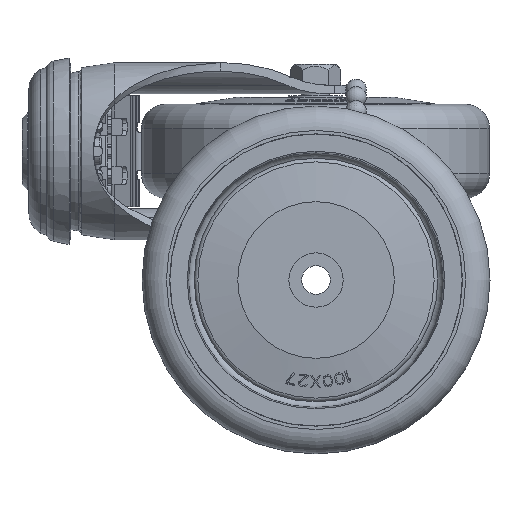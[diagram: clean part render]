
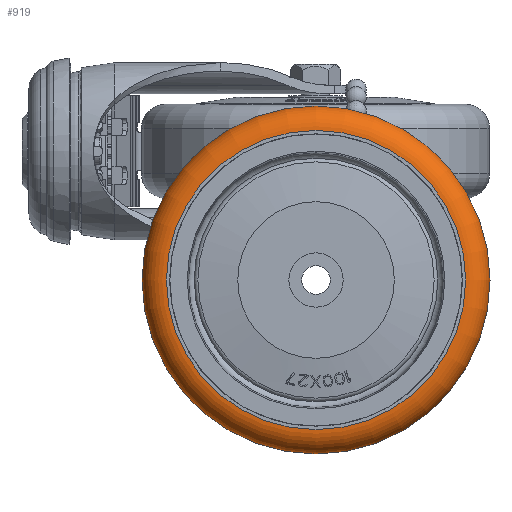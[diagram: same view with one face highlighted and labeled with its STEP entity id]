
A CAD part, left-side view. The second image highlights one B-rep face of the part: STEP entity #919.
In plain terms, the highlighted toroidal (fillet/blend) face has major radius 43 mm and minor radius 7 mm.
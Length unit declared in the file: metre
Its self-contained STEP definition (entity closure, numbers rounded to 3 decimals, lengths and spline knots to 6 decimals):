
#919=ADVANCED_FACE('',(#3119,#3120),#3121,.T.);
#3119=FACE_OUTER_BOUND('',#7003,.T.);
#3120=FACE_OUTER_BOUND('',#7004,.T.);
#3121=TOROIDAL_SURFACE('',#7005,0.043,0.007);
#7003=EDGE_LOOP('',(#15889));
#7004=EDGE_LOOP('',(#15890));
#7005=AXIS2_PLACEMENT_3D('',#15891,#15892,#15893);
#15889=ORIENTED_EDGE('',*,*,#29790,.F.);
#15890=ORIENTED_EDGE('',*,*,#29791,.F.);
#15891=CARTESIAN_POINT('',(0.0,0.0,0.0065));
#15892=DIRECTION('',(0.0,0.0,-1.0));
#15893=DIRECTION('',(1.0,0.0,0.0));
#29790=EDGE_CURVE('',#35312,#35312,#35313,.T.);
#29791=EDGE_CURVE('',#35314,#35314,#35315,.T.);
#35312=VERTEX_POINT('',#45570);
#35313=CIRCLE('',#45571,0.043);
#35314=VERTEX_POINT('',#45572);
#35315=CIRCLE('',#45573,0.05);
#45570=CARTESIAN_POINT('',(-0.043,0.0,0.0135));
#45571=AXIS2_PLACEMENT_3D('',#63897,#63898,#63899);
#45572=CARTESIAN_POINT('',(-0.05,0.0,0.0065));
#45573=AXIS2_PLACEMENT_3D('',#63900,#63901,#63902);
#63897=CARTESIAN_POINT('',(0.0,0.0,0.0135));
#63898=DIRECTION('',(0.0,0.0,1.0));
#63899=DIRECTION('',(-1.0,0.0,0.0));
#63900=CARTESIAN_POINT('',(0.0,0.0,0.0065));
#63901=DIRECTION('',(0.0,0.0,-1.0));
#63902=DIRECTION('',(-1.0,0.0,0.0));
